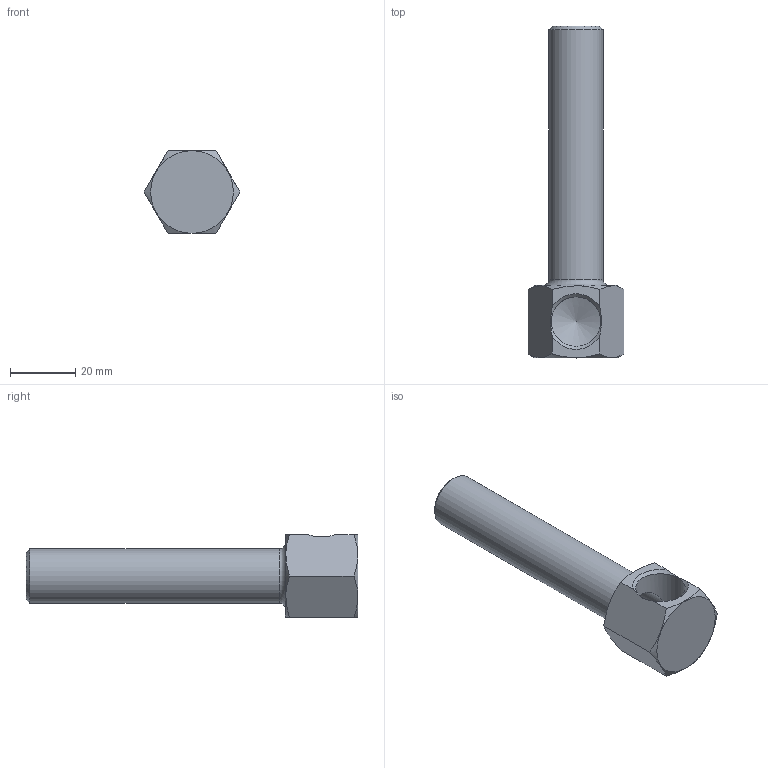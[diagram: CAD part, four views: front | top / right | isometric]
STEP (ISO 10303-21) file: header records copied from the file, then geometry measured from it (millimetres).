
FILE_DESCRIPTION(/* description */ (''),/* implementation_level */ '2;1');
FILE_NAME(/* name */ 'C:/Users/drich/Desktop/38B-4 v1.step',/* time_stamp */ '2019-12-29T15:23:30-06:00',/* author */ (''),/* organization */ (''),/* preprocessor_version */ 'ST-DEVELOPER v18',/* originating_system */ 'Autodesk Translation Framework v8.12.0.6',/* authorisation */ '');
FILE_SCHEMA (('AUTOMOTIVE_DESIGN { 1 0 10303 214 3 1 1 }'));
Length unit declared in the file: inch
Products named in the file (1): 38B-4
Bounding box: 29.33 x 101.6 x 25.4 mm (x, y, z)
Volume: 16504.1 mm3; surface area: 10857.5 mm2
Topology: 1 solids, 1 shells, 20 faces, 53 edges, 35 vertices
Faces by surface type: plane 10, cone 6, cylinder 3, torus 1
Full cylindrical faces by diameter (mm): 11.887 x1, 15.173 x1, 16.537 x1
Entity records: 687 total; most frequent: CARTESIAN_POINT 184, ORIENTED_EDGE 104, DIRECTION 91, EDGE_CURVE 52, AXIS2_PLACEMENT_3D 37, VERTEX_POINT 35, EDGE_LOOP 23, FACE_OUTER_BOUND 20
